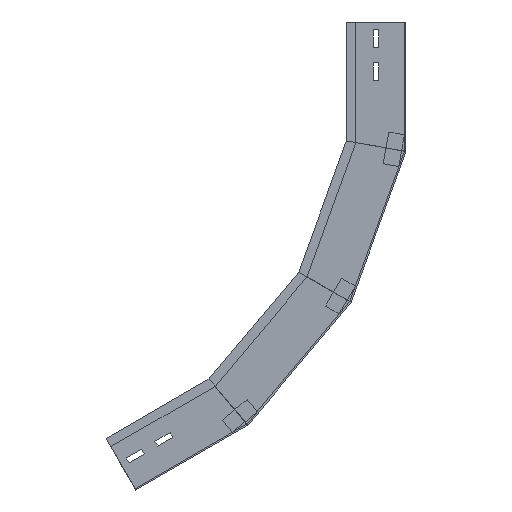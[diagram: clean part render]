
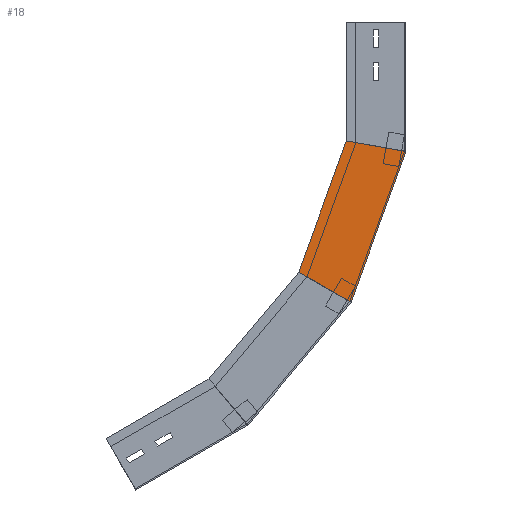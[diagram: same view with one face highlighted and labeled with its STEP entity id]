
A CAD part, left-side view. The second image highlights one B-rep face of the part: STEP entity #18.
In plain terms, the highlighted planar face has unit normal (-1, 0, 0) as drawn and (1, 0, 0) by its records, which use the part's own axes.
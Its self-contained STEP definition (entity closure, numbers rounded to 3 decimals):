
#10 = LINE ( 'NONE', #805, #631 ) ;
#18 = ADVANCED_FACE ( 'NONE', ( #559 ), #77, .F. ) ;
#77 = PLANE ( 'NONE',  #1441 ) ;
#204 = ORIENTED_EDGE ( 'NONE', *, *, #963, .T. ) ;
#208 = VECTOR ( 'NONE', #1656, 1000. ) ;
#238 = LINE ( 'NONE', #1277, #208 ) ;
#311 = ORIENTED_EDGE ( 'NONE', *, *, #528, .F. ) ;
#398 = CARTESIAN_POINT ( 'NONE',  ( 0., 135.11, -314.927 ) ) ;
#425 = CARTESIAN_POINT ( 'NONE',  ( 0., 248.081, -449.56 ) ) ;
#496 = LINE ( 'NONE', #1285, #1621 ) ;
#508 = EDGE_CURVE ( 'NONE', #1307, #1381, #496, .T. ) ;
#528 = EDGE_CURVE ( 'NONE', #1381, #828, #10, .T. ) ;
#559 = FACE_OUTER_BOUND ( 'NONE', #1395, .T. ) ;
#631 = VECTOR ( 'NONE', #1689, 1000. ) ;
#636 = DIRECTION ( 'NONE',  ( 0., 0.643, -0.766 ) ) ;
#805 = CARTESIAN_POINT ( 'NONE',  ( 0., 221.697, -481.003 ) ) ;
#808 = VECTOR ( 'NONE', #1010, 1000. ) ;
#828 = VERTEX_POINT ( 'NONE', #1483 ) ;
#831 = DIRECTION ( 'NONE',  ( 0., 0., 1. ) ) ;
#841 = CARTESIAN_POINT ( 'NONE',  ( 0., 69.156, -353.006 ) ) ;
#918 = CARTESIAN_POINT ( 'NONE',  ( 0., 69.156, -353.006 ) ) ;
#955 = ORIENTED_EDGE ( 'NONE', *, *, #508, .F. ) ;
#963 = EDGE_CURVE ( 'NONE', #1307, #982, #1658, .T. ) ;
#982 = VERTEX_POINT ( 'NONE', #918 ) ;
#983 = ORIENTED_EDGE ( 'NONE', *, *, #1612, .T. ) ;
#1010 = DIRECTION ( 'NONE',  ( 0., -0.866, -0.5 ) ) ;
#1242 = DIRECTION ( 'NONE',  ( -1., 0., 0. ) ) ;
#1256 = CARTESIAN_POINT ( 'NONE',  ( 0., 99.564, -335.45 ) ) ;
#1277 = CARTESIAN_POINT ( 'NONE',  ( 0., 69.156, -353.006 ) ) ;
#1285 = CARTESIAN_POINT ( 'NONE',  ( 0., 126.61, -304.797 ) ) ;
#1307 = VERTEX_POINT ( 'NONE', #398 ) ;
#1381 = VERTEX_POINT ( 'NONE', #425 ) ;
#1395 = EDGE_LOOP ( 'NONE', ( #955, #204, #983, #311 ) ) ;
#1441 = AXIS2_PLACEMENT_3D ( 'NONE', #841, #1242, #831 ) ;
#1483 = CARTESIAN_POINT ( 'NONE',  ( 0., 199.128, -507.9 ) ) ;
#1612 = EDGE_CURVE ( 'NONE', #982, #828, #238, .T. ) ;
#1621 = VECTOR ( 'NONE', #636, 1000. ) ;
#1656 = DIRECTION ( 'NONE',  ( 0., 0.643, -0.766 ) ) ;
#1658 = LINE ( 'NONE', #1256, #808 ) ;
#1689 = DIRECTION ( 'NONE',  ( 0., -0.643, -0.766 ) ) ;
